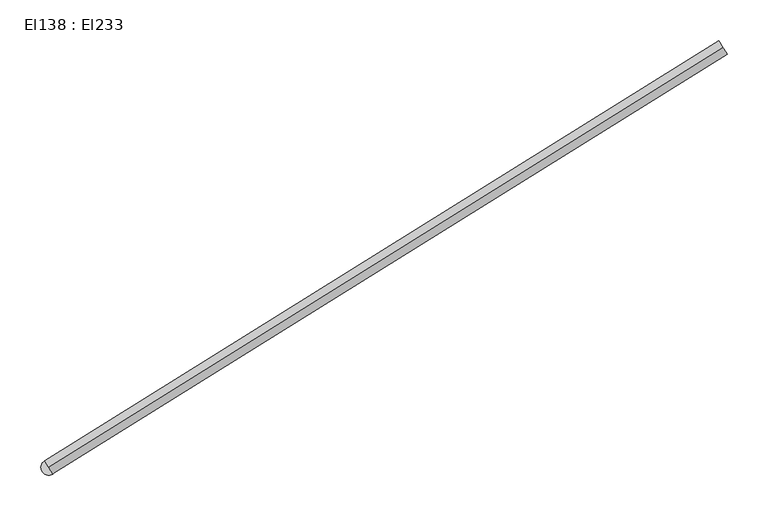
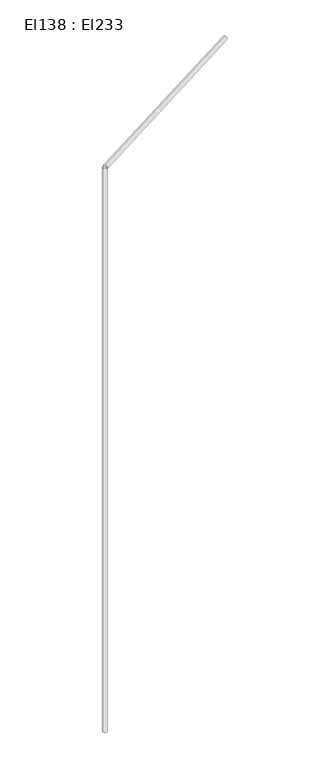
"""IFC4 building model written with IfcOpenShell, lengths in millimetres: cable carrier segment geometry, El138 : El233."""

from ifc_helpers import new_model, si_unit, point, frame, frame_2d, origin, place, context, project, spatial, circle_curve, trimmed, segment, composite_curve, outline, extrude, source, transform, mapped, element, save


def el138_el233_6ae7f953(model_context):
    return source(origin(), model_context, "Body", "SweptSolid", [
        extrude(outline(composite_curve([segment(trimmed(circle_curve(frame_2d((9314.4756511, 14774.2621745)), 9.5), [point((9304.9756511, 14774.2621745))], [point((9323.9756511, 14774.2621745))], False, "CARTESIAN"), True, "CONTINUOUS"), segment(trimmed(circle_curve(frame_2d((9314.4756511, 14774.2621745)), 9.5), [point((9323.9756511, 14774.2621745))], [point((9304.9756511, 14774.2621745))], False, "CARTESIAN"), True, "CONTINUOUS")], self_intersect=False)), frame((0.0, 0.0, 1830.0), z_axis=(0.0, 0.0, 1.0), x_axis=(1.0, 0.0, 0.0)), (0.0, 0.0, 1.0), 2620.0),
        extrude(outline(composite_curve([segment(trimmed(circle_curve(frame_2d((0.0, -9.5)), 9.5), [point((0.0, -19.0))], [point((0.0, 0.0))], False, "CARTESIAN"), True, "CONTINUOUS"), segment(trimmed(circle_curve(frame_2d((0.0, -9.5)), 9.5), [point((0.0, 0.0))], [point((0.0, -19.0))], False, "CARTESIAN"), True, "CONTINUOUS")], self_intersect=False)), frame((9314.4751262, 14774.2615584, 4459.5), z_axis=(0.8488722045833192, 0.5285981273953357, 0.0), x_axis=(-0.5285981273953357, 0.8488722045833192, 0.0)), (0.0, 0.0, 1.0), 969.613),
    ])


if __name__ == "__main__":
    model = new_model("IFC4")
    model_context = context("Model", 3, world=origin())
    ifc_project = project(units=[si_unit("LENGTHUNIT", "METRE", prefix="MILLI")], contexts=[model_context])
    site = spatial("IfcSite", under=ifc_project)
    building = spatial("IfcBuilding", under=site)
    placement = place(None, origin())
    el138_el233_shape = el138_el233_6ae7f953(model_context)
    element("IfcCableCarrierSegment", 1, ObjectType="El138 : El233", at=placement, inside=building, context=model_context, shape_type="MappedRepresentation", body=[
        mapped(el138_el233_shape, transform((0.0, 0.0, 0.0), x_axis=(1.0, 0.0, 0.0), y_axis=(0.0, 1.0, 0.0), z_axis=(0.0, 0.0, 1.0))),
    ])
    save(model, "model.ifc")
